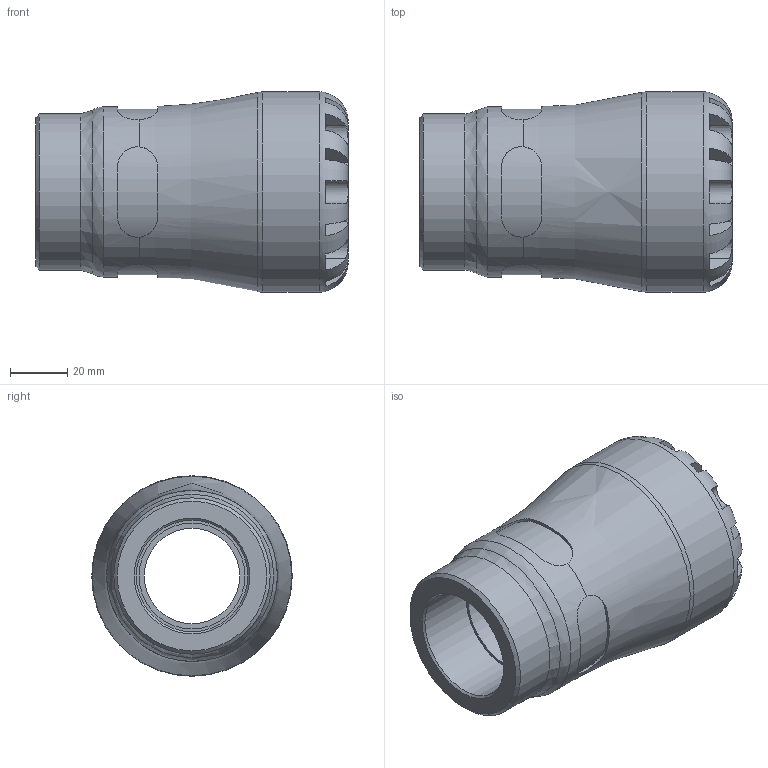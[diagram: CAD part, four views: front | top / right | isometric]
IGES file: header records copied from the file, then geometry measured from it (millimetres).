
Global section: file name: 107300040013_197300040013.ipt; native system: Autodesk Inventor 2015; preprocessor: unknown; author: KIM; date: 20170122.113614; units: millimetre
Bounding box: 109 x 70 x 70 mm (x, y, z)
Volume: 199258.3 mm3; surface area: 40553.9 mm2
Topology: 1 solids, 1 shells, 104 faces, 279 edges, 180 vertices
Faces by surface type: plane 61, revolution 27, cylinder 15, cone 1
Full cylindrical faces by diameter (mm): 54.6 x1, 59.5 x1, 70 x1
